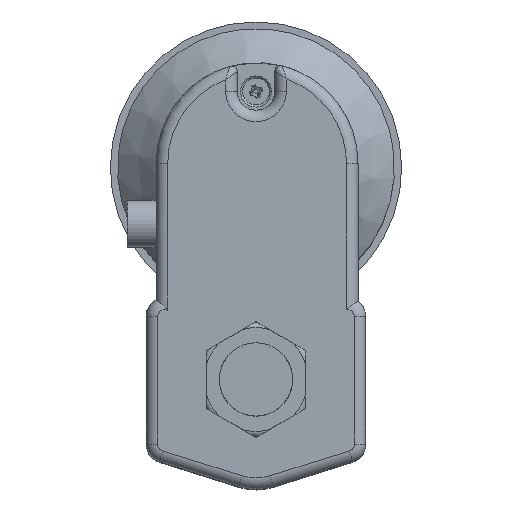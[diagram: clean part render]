
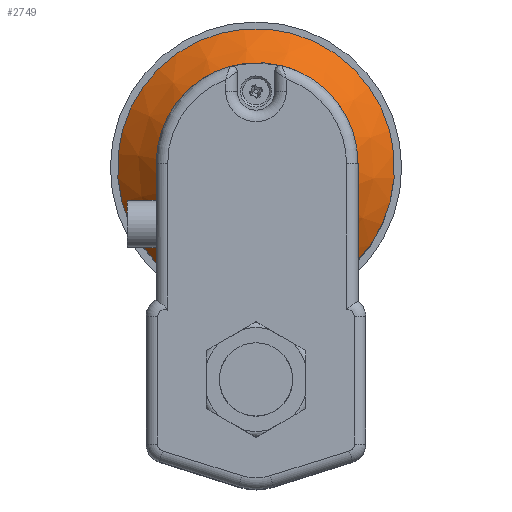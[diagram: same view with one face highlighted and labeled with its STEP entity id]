
A CAD part, top view. The second image highlights one B-rep face of the part: STEP entity #2749.
In plain terms, the highlighted conical face has half-angle 45 degrees and reference radius 48 mm.
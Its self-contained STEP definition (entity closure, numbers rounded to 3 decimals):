
#116 = CARTESIAN_POINT ( 'NONE',  ( -27.908, 34.847, 53.5 ) ) ;
#136 = CARTESIAN_POINT ( 'NONE',  ( 27.908, 34.847, 53.5 ) ) ;
#329 = AXIS2_PLACEMENT_3D ( 'NONE', #3335, #3344, #3345 ) ;
#337 = AXIS2_PLACEMENT_3D ( 'NONE', #3390, #3397, #3398 ) ;
#620 = FACE_OUTER_BOUND ( 'NONE', #2368, .T. ) ;
#626 = FACE_BOUND ( 'NONE', #2362, .T. ) ;
#627 = CONICAL_SURFACE ( 'NONE', #3027, 48., 0.785 ) ;
#915 = ORIENTED_EDGE ( 'NONE', *, *, #1451, .F. ) ;
#916 = ORIENTED_EDGE ( 'NONE', *, *, #1458, .T. ) ;
#917 = ORIENTED_EDGE ( 'NONE', *, *, #1459, .T. ) ;
#1099 = CIRCLE ( 'NONE', #329, 34. ) ;
#1107 = CIRCLE ( 'NONE', #337, 48. ) ;
#1163 = VERTEX_POINT ( 'NONE', #136 ) ;
#1171 = VERTEX_POINT ( 'NONE', #116 ) ;
#1451 = EDGE_CURVE ( 'NONE', #5615, #5615, #1099, .T. ) ;
#1458 = EDGE_CURVE ( 'NONE', #1163, #1171, #1107, .T. ) ;
#1459 = EDGE_CURVE ( 'NONE', #1171, #1163, #2215, .T. ) ;
#2215 = B_SPLINE_CURVE_WITH_KNOTS ( 'NONE', 3,
 ( #3396, #3399, #3400, #3401, #3402, #3403, #3404, #3405, #3406, #3407, #3408, #3409, #3410, #3411, #3412, #3413, #3414, #3415, #3416, #3417, #3418, #3419, #3420, #3421, #3422, #3423 ),
 .UNSPECIFIED., .F., .F.,
 ( 4, 2, 2, 2, 2, 2, 2, 2, 2, 2, 2, 2, 4 ),
 ( 0., 0.004, 0.007, 0.015, 0.018, 0.022, 0.026, 0.029, 0.037, 0.04, 0.044, 0.051, 0.059 ),
 .UNSPECIFIED. ) ;
#2362 = EDGE_LOOP ( 'NONE', ( #915 ) ) ;
#2368 = EDGE_LOOP ( 'NONE', ( #916, #917 ) ) ;
#2749 = ADVANCED_FACE ( 'NONE', ( #626, #620 ), #627, .T. ) ;
#3027 = AXIS2_PLACEMENT_3D ( 'NONE', #5195, #5196, #5185 ) ;
#3335 = CARTESIAN_POINT ( 'NONE',  ( 0., 73.9, 67.5 ) ) ;
#3344 = DIRECTION ( 'NONE',  ( 0., 0., 1. ) ) ;
#3345 = DIRECTION ( 'NONE',  ( 0., -1., 0. ) ) ;
#3390 = CARTESIAN_POINT ( 'NONE',  ( 0., 73.9, 53.5 ) ) ;
#3396 = CARTESIAN_POINT ( 'NONE',  ( -27.908, 34.847, 53.5 ) ) ;
#3397 = DIRECTION ( 'NONE',  ( 0., 0., 1. ) ) ;
#3398 = DIRECTION ( 'NONE',  ( 0., -1., 0. ) ) ;
#3399 = CARTESIAN_POINT ( 'NONE',  ( -26.826, 34.768, 54.065 ) ) ;
#3400 = CARTESIAN_POINT ( 'NONE',  ( -25.733, 34.688, 54.609 ) ) ;
#3401 = CARTESIAN_POINT ( 'NONE',  ( -23.531, 34.53, 55.644 ) ) ;
#3402 = CARTESIAN_POINT ( 'NONE',  ( -22.421, 34.452, 56.137 ) ) ;
#3403 = CARTESIAN_POINT ( 'NONE',  ( -19.06, 34.223, 57.53 ) ) ;
#3404 = CARTESIAN_POINT ( 'NONE',  ( -16.779, 34.077, 58.344 ) ) ;
#3405 = CARTESIAN_POINT ( 'NONE',  ( -13.28, 33.887, 59.356 ) ) ;
#3406 = CARTESIAN_POINT ( 'NONE',  ( -12.101, 33.829, 59.657 ) ) ;
#3407 = CARTESIAN_POINT ( 'NONE',  ( -9.715, 33.725, 60.183 ) ) ;
#3408 = CARTESIAN_POINT ( 'NONE',  ( -8.505, 33.679, 60.407 ) ) ;
#3409 = CARTESIAN_POINT ( 'NONE',  ( -6.081, 33.605, 60.767 ) ) ;
#3410 = CARTESIAN_POINT ( 'NONE',  ( -4.863, 33.577, 60.903 ) ) ;
#3411 = CARTESIAN_POINT ( 'NONE',  ( -2.415, 33.538, 61.085 ) ) ;
#3412 = CARTESIAN_POINT ( 'NONE',  ( -1.188, 33.529, 61.13 ) ) ;
#3413 = CARTESIAN_POINT ( 'NONE',  ( 2.477, 33.529, 61.127 ) ) ;
#3414 = CARTESIAN_POINT ( 'NONE',  ( 4.908, 33.569, 60.942 ) ) ;
#3415 = CARTESIAN_POINT ( 'NONE',  ( 8.537, 33.68, 60.402 ) ) ;
#3416 = CARTESIAN_POINT ( 'NONE',  ( 9.746, 33.726, 60.177 ) ) ;
#3417 = CARTESIAN_POINT ( 'NONE',  ( 12.13, 33.83, 59.65 ) ) ;
#3418 = CARTESIAN_POINT ( 'NONE',  ( 13.307, 33.888, 59.348 ) ) ;
#3419 = CARTESIAN_POINT ( 'NONE',  ( 16.801, 34.078, 58.337 ) ) ;
#3420 = CARTESIAN_POINT ( 'NONE',  ( 19.078, 34.224, 57.523 ) ) ;
#3421 = CARTESIAN_POINT ( 'NONE',  ( 23.55, 34.529, 55.668 ) ) ;
#3422 = CARTESIAN_POINT ( 'NONE',  ( 25.745, 34.688, 54.629 ) ) ;
#3423 = CARTESIAN_POINT ( 'NONE',  ( 27.908, 34.847, 53.5 ) ) ;
#5185 = DIRECTION ( 'NONE',  ( 0., 1., 0. ) ) ;
#5195 = CARTESIAN_POINT ( 'NONE',  ( 0., 73.9, 53.5 ) ) ;
#5196 = DIRECTION ( 'NONE',  ( 0., 0., -1. ) ) ;
#5615 = VERTEX_POINT ( 'NONE', #5616 ) ;
#5616 = CARTESIAN_POINT ( 'NONE',  ( 0., 39.9, 67.5 ) ) ;
